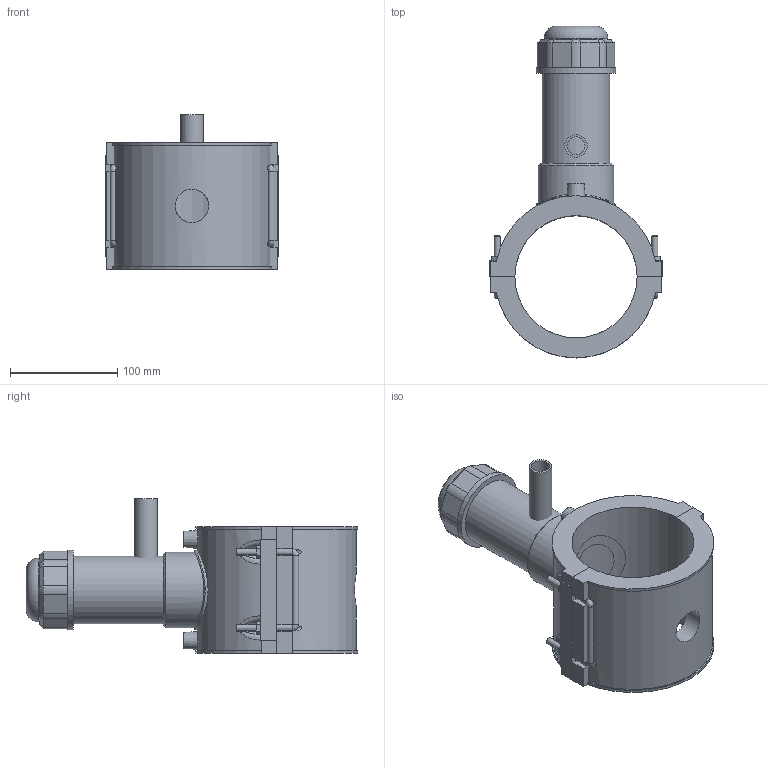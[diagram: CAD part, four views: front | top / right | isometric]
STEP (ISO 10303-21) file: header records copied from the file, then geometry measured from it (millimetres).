
FILE_DESCRIPTION(/* description */ ('PLASSON TAPPING SADDLE 4''''IPS x 1/2''''IPS'),/* implementation_level */ '2;1');
FILE_NAME(/* name */ 'C:\Dropbox\KIMPROJECTS-Inventor 2019\99-16-3568-Processing Inch\ASTM ElectroFusion 2021\5963BBP_5963BUP\5963BBP3040005.ipt.stp',/* time_stamp */ '2021-08-30T09:57:01+03:00',/* author */ ('KIM'),/* organization */ (''),/* preprocessor_version */ 'ST-DEVELOPER v17.2',/* originating_system */ 'Autodesk Inventor 2019',/* authorisation */ '');
FILE_SCHEMA (('AUTOMOTIVE_DESIGN { 1 0 10303 214 3 1 1 }'));
Length unit declared in the file: inch
Products named in the file (1): 5963BBP3040005
Bounding box: 161 x 309.74 x 144.15 mm (x, y, z)
Volume: 1228254.9 mm3; surface area: 215363.1 mm2
Topology: 3 solids, 3 shells, 195 faces, 500 edges, 321 vertices
Faces by surface type: plane 112, cylinder 54, cone 15, bspline 13, torus 1
Full cylindrical faces by diameter (mm): 4 x2, 6 x8, 10 x2, 16.96 x1, 21.2 x1, 31.36 x1, 51.915 x1, 59.332 x1, 63.04 x1, 70.457 x1, 74.165 x2
Entity records: 7084 total; most frequent: CARTESIAN_POINT 2337, ORIENTED_EDGE 984, DIRECTION 951, EDGE_CURVE 492, AXIS2_PLACEMENT_3D 325, VERTEX_POINT 321, LINE 301, VECTOR 301
